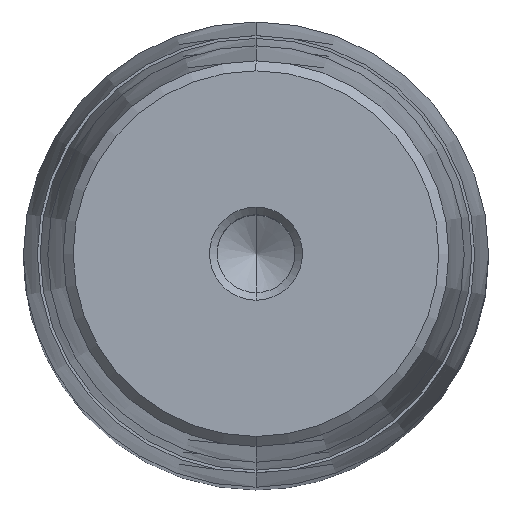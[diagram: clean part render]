
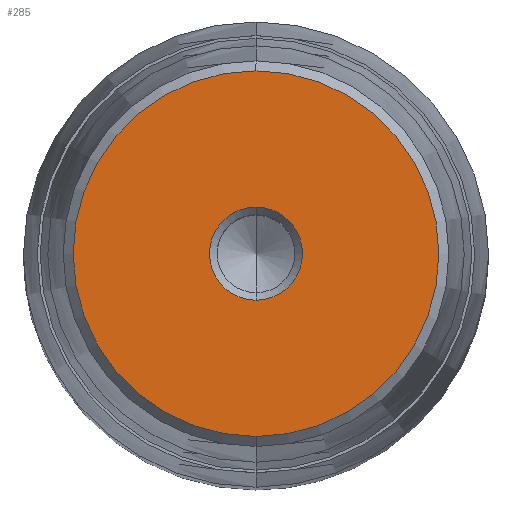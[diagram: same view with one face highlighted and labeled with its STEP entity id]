
A CAD part, top view. The second image highlights one B-rep face of the part: STEP entity #285.
In plain terms, the highlighted planar face has unit normal (0, 0, 1).
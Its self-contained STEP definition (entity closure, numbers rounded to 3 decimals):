
#164=CARTESIAN_POINT('Axis2P3D Location',(0.,0.,58.)) ;
#168=CARTESIAN_POINT('Vertex',(5.,0.,58.)) ;
#170=CARTESIAN_POINT('Vertex',(0.,-5.,58.)) ;
#173=CARTESIAN_POINT('Axis2P3D Location',(0.,0.,58.)) ;
#177=CARTESIAN_POINT('Vertex',(0.,5.,58.)) ;
#228=CARTESIAN_POINT('Axis2P3D Location',(0.,5.,58.)) ;
#233=CARTESIAN_POINT('Axis2P3D Location',(0.,0.,58.)) ;
#237=CARTESIAN_POINT('Vertex',(0.,19.65,58.)) ;
#239=CARTESIAN_POINT('Vertex',(19.65,0.,58.)) ;
#242=CARTESIAN_POINT('Axis2P3D Location',(0.,0.,58.)) ;
#246=CARTESIAN_POINT('Vertex',(-19.65,0.,58.)) ;
#249=CARTESIAN_POINT('Axis2P3D Location',(0.,0.,58.)) ;
#253=CARTESIAN_POINT('Vertex',(0.,-19.65,58.)) ;
#256=CARTESIAN_POINT('Axis2P3D Location',(0.,0.,58.)) ;
#267=CARTESIAN_POINT('Axis2P3D Location',(0.,0.,58.)) ;
#271=CARTESIAN_POINT('Vertex',(-5.,0.,58.)) ;
#274=CARTESIAN_POINT('Axis2P3D Location',(0.,0.,58.)) ;
#165=DIRECTION('Axis2P3D Direction',(-0.,0.,1.)) ;
#174=DIRECTION('Axis2P3D Direction',(-0.,0.,1.)) ;
#229=DIRECTION('Axis2P3D Direction',(0.,0.,-1.)) ;
#230=DIRECTION('Axis2P3D XDirection',(0.,1.,0.)) ;
#234=DIRECTION('Axis2P3D Direction',(0.,0.,-1.)) ;
#243=DIRECTION('Axis2P3D Direction',(0.,0.,-1.)) ;
#250=DIRECTION('Axis2P3D Direction',(0.,0.,-1.)) ;
#257=DIRECTION('Axis2P3D Direction',(0.,0.,-1.)) ;
#268=DIRECTION('Axis2P3D Direction',(0.,0.,-1.)) ;
#275=DIRECTION('Axis2P3D Direction',(0.,0.,-1.)) ;
#166=AXIS2_PLACEMENT_3D('Circle Axis2P3D',#164,#165,$) ;
#175=AXIS2_PLACEMENT_3D('Circle Axis2P3D',#173,#174,$) ;
#231=AXIS2_PLACEMENT_3D('Plane Axis2P3D',#228,#229,#230) ;
#235=AXIS2_PLACEMENT_3D('Circle Axis2P3D',#233,#234,$) ;
#244=AXIS2_PLACEMENT_3D('Circle Axis2P3D',#242,#243,$) ;
#251=AXIS2_PLACEMENT_3D('Circle Axis2P3D',#249,#250,$) ;
#258=AXIS2_PLACEMENT_3D('Circle Axis2P3D',#256,#257,$) ;
#269=AXIS2_PLACEMENT_3D('Circle Axis2P3D',#267,#268,$) ;
#276=AXIS2_PLACEMENT_3D('Circle Axis2P3D',#274,#275,$) ;
#262=ORIENTED_EDGE('',*,*,#241,.F.) ;
#263=ORIENTED_EDGE('',*,*,#248,.F.) ;
#264=ORIENTED_EDGE('',*,*,#255,.F.) ;
#265=ORIENTED_EDGE('',*,*,#260,.F.) ;
#280=ORIENTED_EDGE('',*,*,#172,.T.) ;
#281=ORIENTED_EDGE('',*,*,#273,.T.) ;
#282=ORIENTED_EDGE('',*,*,#278,.T.) ;
#283=ORIENTED_EDGE('',*,*,#179,.T.) ;
#284=FACE_BOUND('',#279,.T.) ;
#285=ADVANCED_FACE('722-50x200x240',(#266,#284),#232,.F.) ;
#167=CIRCLE('generated circle',#166,5.) ;
#176=CIRCLE('generated circle',#175,5.) ;
#236=CIRCLE('generated circle',#235,19.65) ;
#245=CIRCLE('generated circle',#244,19.65) ;
#252=CIRCLE('generated circle',#251,19.65) ;
#259=CIRCLE('generated circle',#258,19.65) ;
#270=CIRCLE('generated circle',#269,5.) ;
#277=CIRCLE('generated circle',#276,5.) ;
#172=EDGE_CURVE('',#169,#171,#167,.F.) ;
#179=EDGE_CURVE('',#178,#169,#176,.F.) ;
#241=EDGE_CURVE('',#238,#240,#236,.T.) ;
#248=EDGE_CURVE('',#247,#238,#245,.T.) ;
#255=EDGE_CURVE('',#254,#247,#252,.T.) ;
#260=EDGE_CURVE('',#240,#254,#259,.T.) ;
#273=EDGE_CURVE('',#171,#272,#270,.T.) ;
#278=EDGE_CURVE('',#272,#178,#277,.T.) ;
#261=EDGE_LOOP('',(#262,#263,#264,#265)) ;
#279=EDGE_LOOP('',(#280,#281,#282,#283)) ;
#266=FACE_OUTER_BOUND('',#261,.T.) ;
#232=PLANE('Plane',#231) ;
#169=VERTEX_POINT('',#168) ;
#171=VERTEX_POINT('',#170) ;
#178=VERTEX_POINT('',#177) ;
#238=VERTEX_POINT('',#237) ;
#240=VERTEX_POINT('',#239) ;
#247=VERTEX_POINT('',#246) ;
#254=VERTEX_POINT('',#253) ;
#272=VERTEX_POINT('',#271) ;
